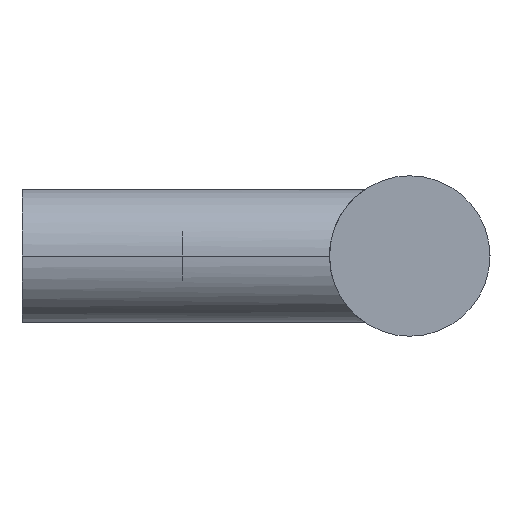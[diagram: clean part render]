
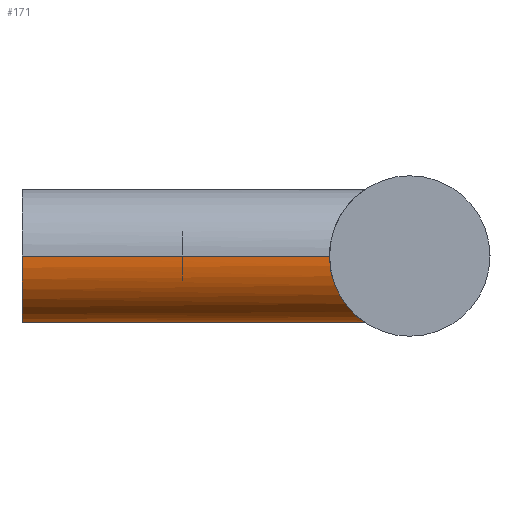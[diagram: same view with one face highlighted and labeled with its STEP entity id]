
A CAD part, left-side view. The second image highlights one B-rep face of the part: STEP entity #171.
In plain terms, the highlighted cylindrical face has radius 5 mm (diameter 10 mm), a partial arc.
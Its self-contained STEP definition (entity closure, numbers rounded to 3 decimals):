
#149 = EDGE_CURVE( '', #191, #201, #371, .T. );
#153 = VERTEX_POINT( '', #375 );
#171 = ADVANCED_FACE( '', ( #397 ), #398, .T. );
#187 = EDGE_CURVE( '', #191, #153, #415, .T. );
#191 = VERTEX_POINT( '', #419 );
#201 = VERTEX_POINT( '', #429 );
#209 = EDGE_CURVE( '', #235, #153, #437, .T. );
#235 = VERTEX_POINT( '', #469 );
#237 = EDGE_CURVE( '', #235, #201, #471, .T. );
#371 = B_SPLINE_CURVE_WITH_KNOTS( '', 3, ( #610, #611, #612, #613, #614, #615, #616, #617, #618, #619, #620, #621, #622, #623, #624, #625, #626, #627, #628, #629, #630, #631, #632, #633, #634, #635, #636, #637, #638, #639, #640, #641, #642, #643 ), .UNSPECIFIED., .F., .F., ( 4, 2, 2, 2, 2, 2, 2, 2, 2, 2, 2, 2, 2, 2, 2, 2, 4 ), ( 8.161, 9.16, 10.159, 11.158, 12.157, 13.198, 14.239, 15.28, 16.322, 17.363, 18.404, 19.446, 20.487, 21.486, 22.485, 23.484, 24.483 ), .UNSPECIFIED. );
#375 = CARTESIAN_POINT( '', ( -5., 0., 0. ) );
#397 = FACE_OUTER_BOUND( '', #724, .T. );
#398 = CYLINDRICAL_SURFACE( '', #725, 5. );
#415 = LINE( '', #746, #747 );
#419 = CARTESIAN_POINT( '', ( -5., -23., 0. ) );
#429 = CARTESIAN_POINT( '', ( 5., -23., 0. ) );
#437 = CIRCLE( '', #813, 5. );
#469 = CARTESIAN_POINT( '', ( 5., 0., 0. ) );
#471 = LINE( '', #887, #888 );
#610 = CARTESIAN_POINT( '', ( -5., -23., 0. ) );
#611 = CARTESIAN_POINT( '', ( -5., -23., -0.333 ) );
#612 = CARTESIAN_POINT( '', ( -4.966, -23.028, -0.672 ) );
#613 = CARTESIAN_POINT( '', ( -4.83, -23.141, -1.335 ) );
#614 = CARTESIAN_POINT( '', ( -4.728, -23.225, -1.659 ) );
#615 = CARTESIAN_POINT( '', ( -4.467, -23.437, -2.272 ) );
#616 = CARTESIAN_POINT( '', ( -4.306, -23.566, -2.561 ) );
#617 = CARTESIAN_POINT( '', ( -3.946, -23.847, -3.088 ) );
#618 = CARTESIAN_POINT( '', ( -3.745, -24., -3.326 ) );
#619 = CARTESIAN_POINT( '', ( -3.317, -24.311, -3.754 ) );
#620 = CARTESIAN_POINT( '', ( -3.073, -24.483, -3.957 ) );
#621 = CARTESIAN_POINT( '', ( -2.544, -24.825, -4.316 ) );
#622 = CARTESIAN_POINT( '', ( -2.259, -24.995, -4.472 ) );
#623 = CARTESIAN_POINT( '', ( -1.659, -25.301, -4.728 ) );
#624 = CARTESIAN_POINT( '', ( -1.343, -25.436, -4.828 ) );
#625 = CARTESIAN_POINT( '', ( -0.687, -25.627, -4.964 ) );
#626 = CARTESIAN_POINT( '', ( -0.347, -25.683, -5. ) );
#627 = CARTESIAN_POINT( '', ( 0.347, -25.683, -5. ) );
#628 = CARTESIAN_POINT( '', ( 0.687, -25.627, -4.964 ) );
#629 = CARTESIAN_POINT( '', ( 1.343, -25.436, -4.828 ) );
#630 = CARTESIAN_POINT( '', ( 1.659, -25.301, -4.728 ) );
#631 = CARTESIAN_POINT( '', ( 2.259, -24.995, -4.472 ) );
#632 = CARTESIAN_POINT( '', ( 2.544, -24.825, -4.316 ) );
#633 = CARTESIAN_POINT( '', ( 3.073, -24.483, -3.957 ) );
#634 = CARTESIAN_POINT( '', ( 3.317, -24.311, -3.754 ) );
#635 = CARTESIAN_POINT( '', ( 3.745, -24., -3.326 ) );
#636 = CARTESIAN_POINT( '', ( 3.946, -23.847, -3.088 ) );
#637 = CARTESIAN_POINT( '', ( 4.306, -23.566, -2.561 ) );
#638 = CARTESIAN_POINT( '', ( 4.467, -23.437, -2.272 ) );
#639 = CARTESIAN_POINT( '', ( 4.728, -23.225, -1.659 ) );
#640 = CARTESIAN_POINT( '', ( 4.83, -23.141, -1.335 ) );
#641 = CARTESIAN_POINT( '', ( 4.966, -23.028, -0.672 ) );
#642 = CARTESIAN_POINT( '', ( 5., -23., -0.333 ) );
#643 = CARTESIAN_POINT( '', ( 5., -23., 0. ) );
#724 = EDGE_LOOP( '', ( #1148, #1149, #1150, #1151 ) );
#725 = AXIS2_PLACEMENT_3D( '', #1152, #1153, #1154 );
#746 = CARTESIAN_POINT( '', ( -5., 0., 0. ) );
#747 = VECTOR( '', #1165, 1. );
#813 = AXIS2_PLACEMENT_3D( '', #1172, #1173, #1174 );
#887 = CARTESIAN_POINT( '', ( 5., 0., 0. ) );
#888 = VECTOR( '', #1221, 1. );
#1148 = ORIENTED_EDGE( '', *, *, #237, .T. );
#1149 = ORIENTED_EDGE( '', *, *, #149, .F. );
#1150 = ORIENTED_EDGE( '', *, *, #187, .T. );
#1151 = ORIENTED_EDGE( '', *, *, #209, .F. );
#1152 = CARTESIAN_POINT( '', ( 0., 0., 0. ) );
#1153 = DIRECTION( '', ( 0., 1., 0. ) );
#1154 = DIRECTION( '', ( 1., 0., 0. ) );
#1165 = DIRECTION( '', ( 0., 1., 0. ) );
#1172 = CARTESIAN_POINT( '', ( 0., 0., 0. ) );
#1173 = DIRECTION( '', ( 0., 1., 0. ) );
#1174 = DIRECTION( '', ( 1., 0., 0. ) );
#1221 = DIRECTION( '', ( 0., -1., 0. ) );
